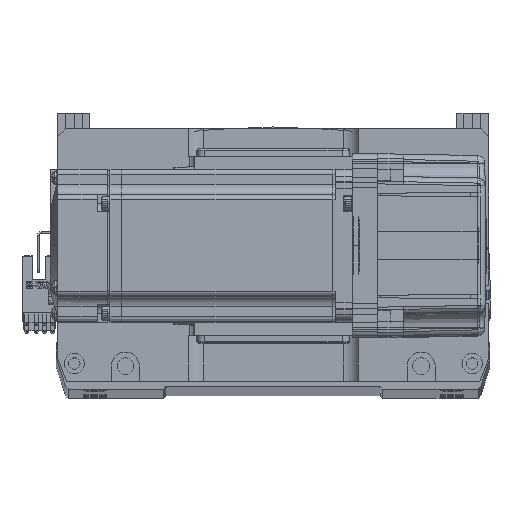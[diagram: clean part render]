
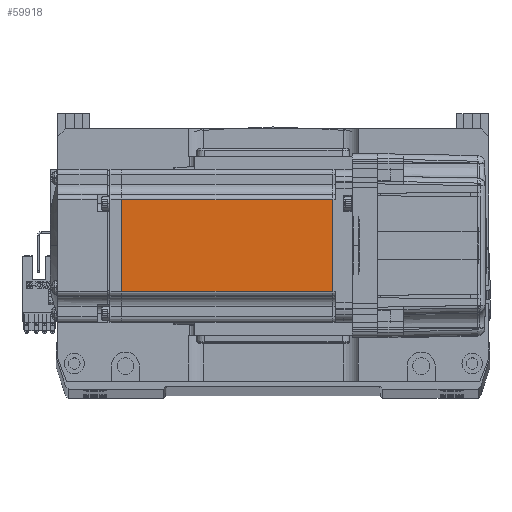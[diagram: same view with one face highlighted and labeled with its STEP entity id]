
A CAD part, top view. The second image highlights one B-rep face of the part: STEP entity #59918.
In plain terms, the highlighted planar face has unit normal (0, 0, 1).
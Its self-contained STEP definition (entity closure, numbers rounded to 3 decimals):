
#1665 = VECTOR ( 'NONE', #11987, 1000. ) ;
#7711 = VERTEX_POINT ( 'NONE', #29903 ) ;
#10519 = CARTESIAN_POINT ( 'NONE',  ( -7.75, 18., 30. ) ) ;
#10633 = VECTOR ( 'NONE', #19323, 1000. ) ;
#10651 = VERTEX_POINT ( 'NONE', #43740 ) ;
#11987 = DIRECTION ( 'NONE',  ( 0., -1., 0. ) ) ;
#12026 = VERTEX_POINT ( 'NONE', #10519 ) ;
#14009 = DIRECTION ( 'NONE',  ( -1., 0., 0. ) ) ;
#14399 = CARTESIAN_POINT ( 'NONE',  ( -6.5, 18., 30. ) ) ;
#14557 = EDGE_CURVE ( 'NONE', #12026, #10651, #51865, .T. ) ;
#17353 = PLANE ( 'NONE',  #35512 ) ;
#17752 = ORIENTED_EDGE ( 'NONE', *, *, #52914, .T. ) ;
#19323 = DIRECTION ( 'NONE',  ( -1., 0., 0. ) ) ;
#20338 = EDGE_CURVE ( 'NONE', #12026, #7711, #29093, .T. ) ;
#24916 = EDGE_CURVE ( 'NONE', #7711, #44654, #60844, .T. ) ;
#29093 = LINE ( 'NONE', #42736, #1665 ) ;
#29903 = CARTESIAN_POINT ( 'NONE',  ( -7.75, -18., 30. ) ) ;
#32789 = CARTESIAN_POINT ( 'NONE',  ( -90.45, 0., 30. ) ) ;
#32923 = CARTESIAN_POINT ( 'NONE',  ( -6.5, -25., 30. ) ) ;
#33367 = VECTOR ( 'NONE', #14009, 1000. ) ;
#35512 = AXIS2_PLACEMENT_3D ( 'NONE', #32923, #44268, #38588 ) ;
#38502 = CARTESIAN_POINT ( 'NONE',  ( -90.45, -18., 30. ) ) ;
#38588 = DIRECTION ( 'NONE',  ( 1., 0., 0. ) ) ;
#41297 = EDGE_LOOP ( 'NONE', ( #49772, #58158, #17752, #62750 ) ) ;
#42736 = CARTESIAN_POINT ( 'NONE',  ( -7.75, 0., 30. ) ) ;
#43740 = CARTESIAN_POINT ( 'NONE',  ( -90.45, 18., 30. ) ) ;
#44268 = DIRECTION ( 'NONE',  ( 0., 0., 1. ) ) ;
#44352 = DIRECTION ( 'NONE',  ( 0., -1., 0. ) ) ;
#44654 = VERTEX_POINT ( 'NONE', #38502 ) ;
#47619 = VECTOR ( 'NONE', #44352, 1000. ) ;
#49772 = ORIENTED_EDGE ( 'NONE', *, *, #20338, .F. ) ;
#51865 = LINE ( 'NONE', #14399, #10633 ) ;
#52914 = EDGE_CURVE ( 'NONE', #10651, #44654, #59729, .T. ) ;
#56575 = FACE_OUTER_BOUND ( 'NONE', #41297, .T. ) ;
#58158 = ORIENTED_EDGE ( 'NONE', *, *, #14557, .T. ) ;
#59729 = LINE ( 'NONE', #32789, #47619 ) ;
#59918 = ADVANCED_FACE ( 'NONE', ( #56575 ), #17353, .T. ) ;
#60844 = LINE ( 'NONE', #60938, #33367 ) ;
#60938 = CARTESIAN_POINT ( 'NONE',  ( -6.5, -18., 30. ) ) ;
#62750 = ORIENTED_EDGE ( 'NONE', *, *, #24916, .F. ) ;
